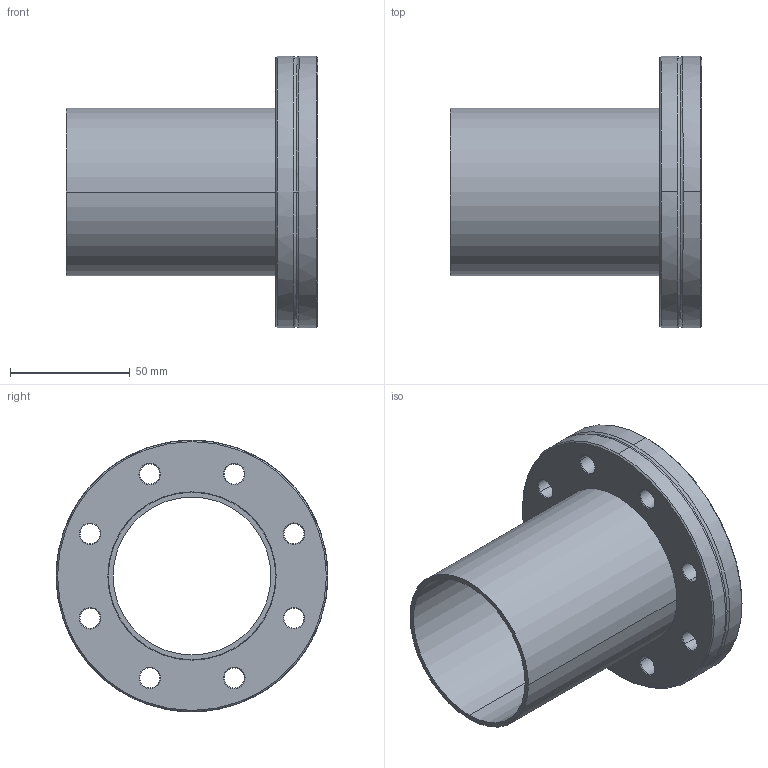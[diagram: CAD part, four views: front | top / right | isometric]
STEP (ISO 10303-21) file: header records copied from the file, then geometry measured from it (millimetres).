
FILE_DESCRIPTION((''),'2;1');
FILE_NAME('N:\Transfer\Berger Martin\Leybold\C15\83532.stp','2005-02-07T08:58:23',('VCRC_L'),(''),'Autodesk Inventor 9','Autodesk Inventor 9','');
FILE_SCHEMA(('AUTOMOTIVE_DESIGN { 1 0 10303 214 1 1 1 1 }'));
Length unit declared in the file: millimetre
Products named in the file (1): 83532
Bounding box: 105 x 113.5 x 113.5 mm (x, y, z)
Volume: 142300.3 mm3; surface area: 67984.4 mm2
Topology: 1 solids, 1 shells, 99 faces, 237 edges, 144 vertices
Faces by surface type: cone 46, bspline 24, cylinder 16, plane 7, torus 6
Entity records: 3578 total; most frequent: CARTESIAN_POINT 1229, DIRECTION 517, ORIENTED_EDGE 474, EDGE_CURVE 237, AXIS2_PLACEMENT_3D 220, VERTEX_POINT 144, CIRCLE 144, EDGE_LOOP 121
